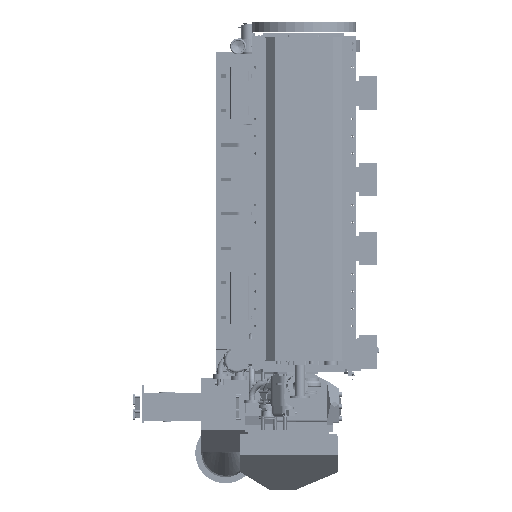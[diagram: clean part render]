
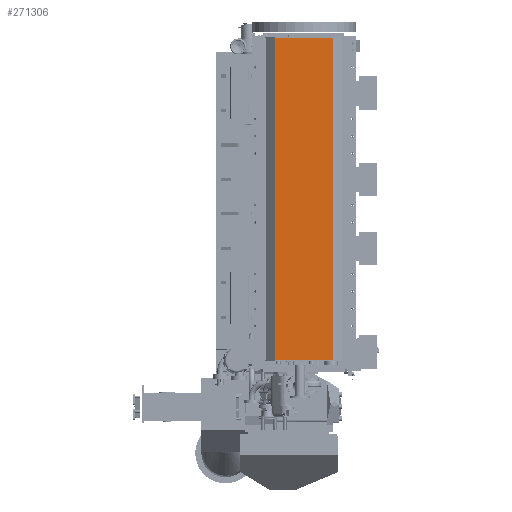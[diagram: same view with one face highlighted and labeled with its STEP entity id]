
A CAD part, front view. The second image highlights one B-rep face of the part: STEP entity #271306.
In plain terms, the highlighted planar face has unit normal (0, -1, 0).
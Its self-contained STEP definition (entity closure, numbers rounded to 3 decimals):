
#270289=DIRECTION('',(0.,0.,-1.));
#270290=VECTOR('',#270289,4022.);
#270291=CARTESIAN_POINT('',(358.015,-1178.,477.));
#270292=LINE('',#270291,#270290);
#270297=DIRECTION('',(1.,0.,0.));
#270298=VECTOR('',#270297,716.);
#270299=CARTESIAN_POINT('',(-357.985,-1178.,-3545.));
#270300=LINE('',#270299,#270298);
#270301=DIRECTION('',(0.,0.,-1.));
#270302=VECTOR('',#270301,4022.);
#270303=CARTESIAN_POINT('',(-357.985,-1178.,477.));
#270304=LINE('',#270303,#270302);
#270305=DIRECTION('',(1.,0.,0.));
#270306=VECTOR('',#270305,716.);
#270307=CARTESIAN_POINT('',(-357.985,-1178.,477.));
#270308=LINE('',#270307,#270306);
#270833=CARTESIAN_POINT('',(-357.985,-1178.,477.));
#270834=VERTEX_POINT('',#270833);
#270835=CARTESIAN_POINT('',(358.015,-1178.,477.));
#270836=VERTEX_POINT('',#270835);
#270885=CARTESIAN_POINT('',(-357.985,-1178.,-3545.));
#270886=VERTEX_POINT('',#270885);
#270887=CARTESIAN_POINT('',(358.015,-1178.,-3545.));
#270888=VERTEX_POINT('',#270887);
#271293=CARTESIAN_POINT('',(-357.985,-1178.,477.));
#271294=DIRECTION('',(0.,-1.,0.));
#271295=DIRECTION('',(1.,0.,0.));
#271296=AXIS2_PLACEMENT_3D('',#271293,#271294,#271295);
#271297=PLANE('',#271296);
#271298=ORIENTED_EDGE('',*,*,#271188,.F.);
#271300=ORIENTED_EDGE('',*,*,#271299,.F.);
#271302=ORIENTED_EDGE('',*,*,#271301,.T.);
#271303=ORIENTED_EDGE('',*,*,#271278,.T.);
#271304=EDGE_LOOP('',(#271298,#271300,#271302,#271303));
#271305=FACE_OUTER_BOUND('',#271304,.F.);
#271306=ADVANCED_FACE('',(#271305),#271297,.T.);
#271188=EDGE_CURVE('',#270886,#270888,#270300,.T.);
#271278=EDGE_CURVE('',#270836,#270888,#270292,.T.);
#271299=EDGE_CURVE('',#270834,#270886,#270304,.T.);
#271301=EDGE_CURVE('',#270834,#270836,#270308,.T.);
